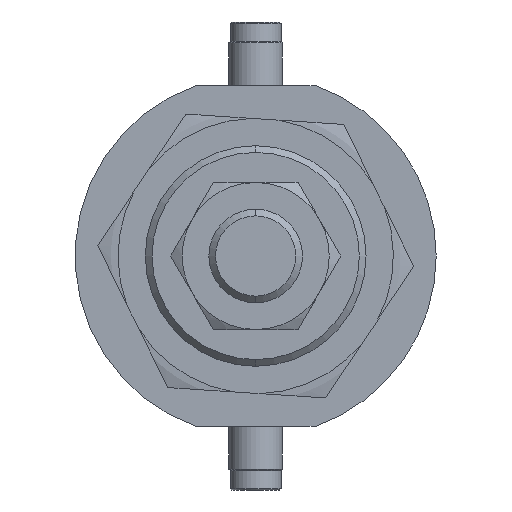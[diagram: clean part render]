
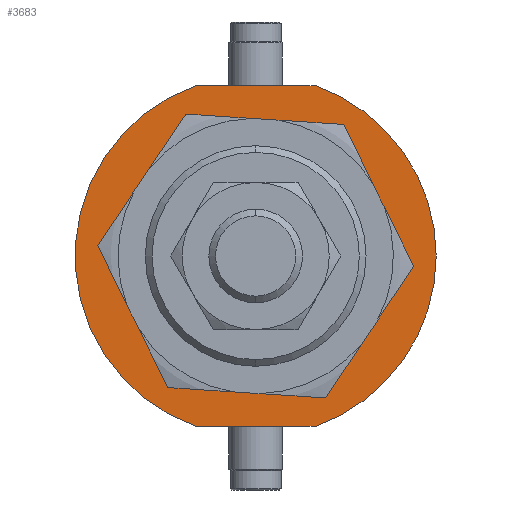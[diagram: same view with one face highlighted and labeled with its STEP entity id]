
A CAD part, left-side view. The second image highlights one B-rep face of the part: STEP entity #3683.
In plain terms, the highlighted planar face has unit normal (-1, 0, 0) as drawn and (0, 1, 0) by its records, which use the part's own axes.
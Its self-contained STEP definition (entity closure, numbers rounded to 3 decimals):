
#11 = FACE_OUTER_BOUND ( 'NONE', #3448, .T. ) ;
#55 = CARTESIAN_POINT ( 'NONE',  ( -25.5, 4.5, 8.874 ) ) ;
#86 = EDGE_CURVE ( 'NONE', #3415, #1160, #3180, .T. ) ;
#104 = DIRECTION ( 'NONE',  ( 0., 0., 1. ) ) ;
#120 = CARTESIAN_POINT ( 'NONE',  ( 0., 4.5, 0. ) ) ;
#123 = VECTOR ( 'NONE', #2856, 1000. ) ;
#131 = VERTEX_POINT ( 'NONE', #1960 ) ;
#134 = CIRCLE ( 'NONE', #647, 27. ) ;
#331 = CIRCLE ( 'NONE', #3272, 27. ) ;
#357 = CARTESIAN_POINT ( 'NONE',  ( 0., 4.5, 0. ) ) ;
#359 = DIRECTION ( 'NONE',  ( 0., 0., 1. ) ) ;
#514 = CARTESIAN_POINT ( 'NONE',  ( 25.5, 4.5, -8.874 ) ) ;
#563 = VERTEX_POINT ( 'NONE', #3933 ) ;
#595 = ORIENTED_EDGE ( 'NONE', *, *, #3778, .F. ) ;
#632 = VECTOR ( 'NONE', #1810, 1000. ) ;
#647 = AXIS2_PLACEMENT_3D ( 'NONE', #1950, #2285, #359 ) ;
#666 = AXIS2_PLACEMENT_3D ( 'NONE', #357, #690, #1949 ) ;
#690 = DIRECTION ( 'NONE',  ( 0., 1., 0. ) ) ;
#782 = AXIS2_PLACEMENT_3D ( 'NONE', #1409, #3048, #1728 ) ;
#816 = PLANE ( 'NONE',  #782 ) ;
#846 = ORIENTED_EDGE ( 'NONE', *, *, #3265, .T. ) ;
#1160 = VERTEX_POINT ( 'NONE', #1932 ) ;
#1291 = LINE ( 'NONE', #2935, #632 ) ;
#1409 = CARTESIAN_POINT ( 'NONE',  ( 0., 4.5, 0. ) ) ;
#1505 = CARTESIAN_POINT ( 'NONE',  ( 0., 4.5, 0. ) ) ;
#1567 = DIRECTION ( 'NONE',  ( 0., 1., 0. ) ) ;
#1611 = AXIS2_PLACEMENT_3D ( 'NONE', #3476, #1567, #3158 ) ;
#1728 = DIRECTION ( 'NONE',  ( 0., 0., 1. ) ) ;
#1782 = EDGE_CURVE ( 'NONE', #2774, #2645, #134, .T. ) ;
#1810 = DIRECTION ( 'NONE',  ( 0., 0., -1. ) ) ;
#1853 = ORIENTED_EDGE ( 'NONE', *, *, #1782, .T. ) ;
#1932 = CARTESIAN_POINT ( 'NONE',  ( -25.5, 4.5, -8.874 ) ) ;
#1949 = DIRECTION ( 'NONE',  ( 0., 0., 1. ) ) ;
#1950 = CARTESIAN_POINT ( 'NONE',  ( 0., 4.5, 0. ) ) ;
#1960 = CARTESIAN_POINT ( 'NONE',  ( 25.5, 4.5, 8.874 ) ) ;
#2135 = CIRCLE ( 'NONE', #1611, 16.5 ) ;
#2152 = DIRECTION ( 'NONE',  ( 0., 0., 1. ) ) ;
#2207 = CARTESIAN_POINT ( 'NONE',  ( -25.5, 4.5, -8.874 ) ) ;
#2285 = DIRECTION ( 'NONE',  ( 0., 1., 0. ) ) ;
#2328 = CIRCLE ( 'NONE', #2503, 16.5 ) ;
#2367 = DIRECTION ( 'NONE',  ( 0., 1., 0. ) ) ;
#2375 = ORIENTED_EDGE ( 'NONE', *, *, #3311, .T. ) ;
#2480 = DIRECTION ( 'NONE',  ( 0., 1., 0. ) ) ;
#2503 = AXIS2_PLACEMENT_3D ( 'NONE', #1505, #2480, #2152 ) ;
#2597 = LINE ( 'NONE', #2207, #123 ) ;
#2608 = CARTESIAN_POINT ( 'NONE',  ( 0., 4.5, 27. ) ) ;
#2645 = VERTEX_POINT ( 'NONE', #2608 ) ;
#2774 = VERTEX_POINT ( 'NONE', #55 ) ;
#2856 = DIRECTION ( 'NONE',  ( 0., 0., 1. ) ) ;
#2897 = ORIENTED_EDGE ( 'NONE', *, *, #86, .T. ) ;
#2914 = ORIENTED_EDGE ( 'NONE', *, *, #3121, .F. ) ;
#2935 = CARTESIAN_POINT ( 'NONE',  ( 25.5, 4.5, -8.874 ) ) ;
#3048 = DIRECTION ( 'NONE',  ( 0., 1., 0. ) ) ;
#3058 = EDGE_CURVE ( 'NONE', #1160, #2774, #2597, .T. ) ;
#3121 = EDGE_CURVE ( 'NONE', #3957, #563, #2135, .T. ) ;
#3158 = DIRECTION ( 'NONE',  ( 0., 0., 1. ) ) ;
#3180 = CIRCLE ( 'NONE', #666, 27. ) ;
#3207 = CARTESIAN_POINT ( 'NONE',  ( 0., 4.5, 16.5 ) ) ;
#3227 = FACE_BOUND ( 'NONE', #3584, .T. ) ;
#3265 = EDGE_CURVE ( 'NONE', #131, #3415, #1291, .T. ) ;
#3272 = AXIS2_PLACEMENT_3D ( 'NONE', #120, #2367, #104 ) ;
#3311 = EDGE_CURVE ( 'NONE', #2645, #131, #331, .T. ) ;
#3415 = VERTEX_POINT ( 'NONE', #514 ) ;
#3448 = EDGE_LOOP ( 'NONE', ( #2897, #4144, #1853, #2375, #846 ) ) ;
#3476 = CARTESIAN_POINT ( 'NONE',  ( 0., 4.5, 0. ) ) ;
#3584 = EDGE_LOOP ( 'NONE', ( #2914, #595 ) ) ;
#3683 = ADVANCED_FACE ( 'NONE', ( #3227, #11 ), #816, .T. ) ;
#3778 = EDGE_CURVE ( 'NONE', #563, #3957, #2328, .T. ) ;
#3933 = CARTESIAN_POINT ( 'NONE',  ( 0., 4.5, -16.5 ) ) ;
#3957 = VERTEX_POINT ( 'NONE', #3207 ) ;
#4144 = ORIENTED_EDGE ( 'NONE', *, *, #3058, .T. ) ;
